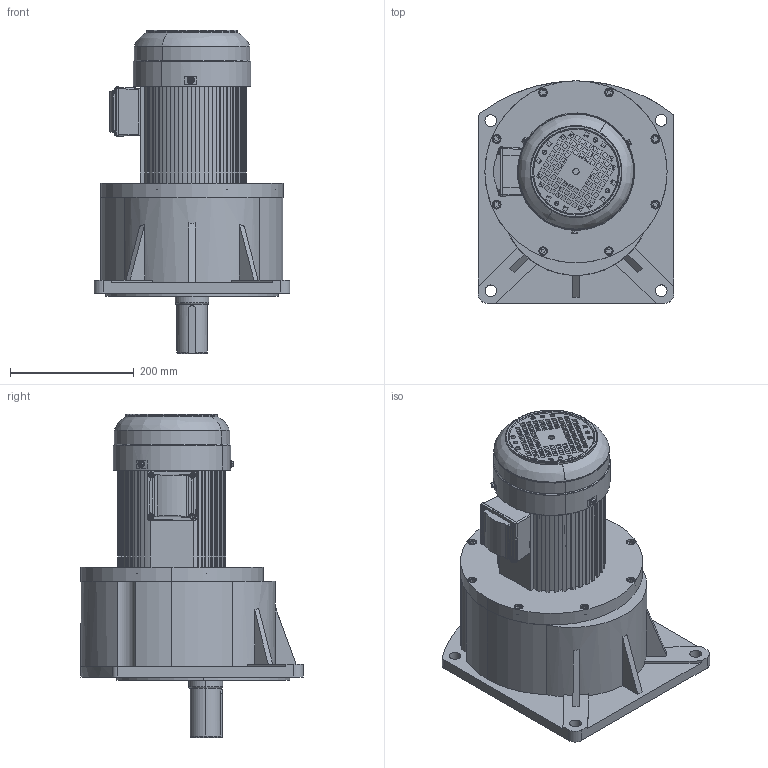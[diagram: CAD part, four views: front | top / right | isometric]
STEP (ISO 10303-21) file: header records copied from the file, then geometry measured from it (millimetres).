
FILE_DESCRIPTION (( 'STEP AP214' ), '1' );
FILE_NAME ('CV50-1500W去字改颜色.STEP', '2024-01-11T06:19:33', ( '微软用户' ), ( '微软中国' ), 'SwSTEP 2.0', 'SolidWorks 2014', '' );
FILE_SCHEMA (( 'AUTOMOTIVE_DESIGN' ));
Length unit declared in the file: millimetre
Products named in the file (9): 菁碟ㄗ臏ㄘ; 瑞珔欶蹟佪; 190瑞珔欶; 160綴裔; 1500W萇儂俋褲; CV50; CV50-1500W去字改颜色; 諉盄碟蹟佪; 奻裔(臏ㄘ
Assembly tree (13 placements, depth 2):
  CV50-1500W去字改颜色
    CV50
    1500W萇儂俋褲
    160綴裔
    190瑞珔欶
    瑞珔欶蹟佪  x3
    菁碟ㄗ臏ㄘ
    奻裔(臏ㄘ
    諉盄碟蹟佪  x4
Bounding box: 317 x 360 x 523.14 mm (x, y, z)
Volume: 25185242.5 mm3; surface area: 2241905.8 mm2
Topology: 22 solids, 22 shells, 2183 faces, 5902 edges, 3884 vertices
Faces by surface type: cylinder 1018, plane 959, bspline 142, cone 64
Entity records: 91852 total; most frequent: CARTESIAN_POINT 42131, ORIENTED_EDGE 10254, DIRECTION 9814, EDGE_CURVE 5127, AXIS2_PLACEMENT_3D 3399, VERTEX_POINT 3377, LINE 3016, VECTOR 3016
